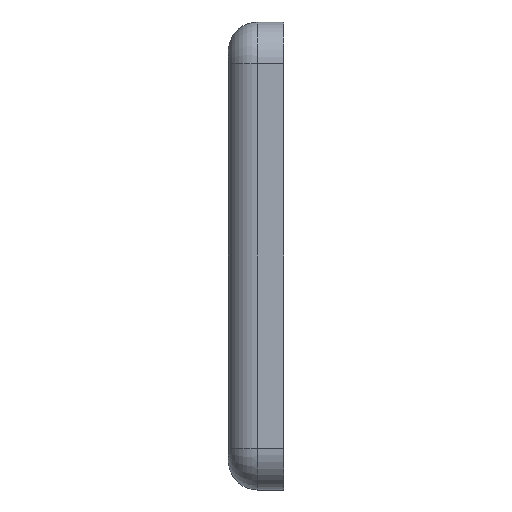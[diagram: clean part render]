
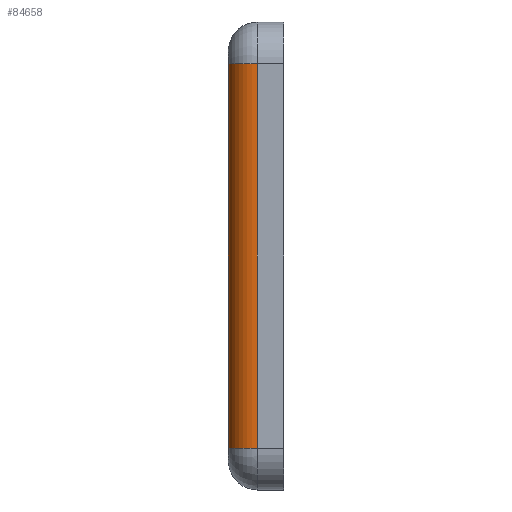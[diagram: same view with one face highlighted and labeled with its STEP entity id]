
A CAD part, left-side view. The second image highlights one B-rep face of the part: STEP entity #84658.
In plain terms, the highlighted cylindrical face has radius 25.4 mm (diameter 50.8 mm), a partial arc.
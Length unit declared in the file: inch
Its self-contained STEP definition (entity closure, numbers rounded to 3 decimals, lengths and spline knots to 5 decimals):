
#14010 = CIRCLE ( 'NONE', #97355, 1. ) ;
#16761 = ORIENTED_EDGE ( 'NONE', *, *, #129321, .T. ) ;
#19524 = DIRECTION ( 'NONE',  ( 1., 0., 0. ) ) ;
#23507 = CARTESIAN_POINT ( 'NONE',  ( -19.04502, 0.9, -6.5805 ) ) ;
#32207 = ORIENTED_EDGE ( 'NONE', *, *, #42434, .F. ) ;
#35266 = LINE ( 'NONE', #61358, #176384 ) ;
#35477 = DIRECTION ( 'NONE',  ( 0., 0., -1. ) ) ;
#36578 = ORIENTED_EDGE ( 'NONE', *, *, #61516, .F. ) ;
#42434 = EDGE_CURVE ( 'NONE', #73414, #54964, #35266, .T. ) ;
#46483 = VERTEX_POINT ( 'NONE', #84452 ) ;
#46912 = CARTESIAN_POINT ( 'NONE',  ( -18.04502, 0.9, 6.5805 ) ) ;
#48815 = FACE_OUTER_BOUND ( 'NONE', #77163, .T. ) ;
#49206 = CARTESIAN_POINT ( 'NONE',  ( -19.04502, 0.9, -6.5805 ) ) ;
#54964 = VERTEX_POINT ( 'NONE', #136662 ) ;
#59925 = VECTOR ( 'NONE', #35477, 39.37008 ) ;
#61358 = CARTESIAN_POINT ( 'NONE',  ( -18.04502, 1.9, 6.5805 ) ) ;
#61516 = EDGE_CURVE ( 'NONE', #54964, #46483, #100485, .T. ) ;
#66358 = ORIENTED_EDGE ( 'NONE', *, *, #114210, .F. ) ;
#68513 = LINE ( 'NONE', #49206, #59925 ) ;
#70283 = DIRECTION ( 'NONE',  ( 0., 0., 1. ) ) ;
#73414 = VERTEX_POINT ( 'NONE', #136946 ) ;
#74677 = DIRECTION ( 'NONE',  ( 0., 0., 1. ) ) ;
#77163 = EDGE_LOOP ( 'NONE', ( #16761, #66358, #36578, #32207 ) ) ;
#80871 = CYLINDRICAL_SURFACE ( 'NONE', #102725, 1. ) ;
#84452 = CARTESIAN_POINT ( 'NONE',  ( -19.04502, 0.9, 6.5805 ) ) ;
#84658 = ADVANCED_FACE ( 'NONE', ( #48815 ), #80871, .T. ) ;
#97355 = AXIS2_PLACEMENT_3D ( 'NONE', #156493, #74677, #170259 ) ;
#100485 = CIRCLE ( 'NONE', #160824, 1. ) ;
#102725 = AXIS2_PLACEMENT_3D ( 'NONE', #46912, #156233, #19524 ) ;
#114210 = EDGE_CURVE ( 'NONE', #46483, #138846, #68513, .T. ) ;
#129321 = EDGE_CURVE ( 'NONE', #73414, #138846, #14010, .T. ) ;
#136662 = CARTESIAN_POINT ( 'NONE',  ( -18.04502, 1.9, 6.5805 ) ) ;
#136946 = CARTESIAN_POINT ( 'NONE',  ( -18.04502, 1.9, -6.5805 ) ) ;
#138846 = VERTEX_POINT ( 'NONE', #23507 ) ;
#143151 = DIRECTION ( 'NONE',  ( 0., 0., 1. ) ) ;
#152055 = CARTESIAN_POINT ( 'NONE',  ( -18.04502, 0.9, 6.5805 ) ) ;
#156233 = DIRECTION ( 'NONE',  ( 0., 0., 1. ) ) ;
#156493 = CARTESIAN_POINT ( 'NONE',  ( -18.04502, 0.9, -6.5805 ) ) ;
#160824 = AXIS2_PLACEMENT_3D ( 'NONE', #152055, #70283, #165845 ) ;
#165845 = DIRECTION ( 'NONE',  ( 1., 0., 0. ) ) ;
#170259 = DIRECTION ( 'NONE',  ( 1., 0., 0. ) ) ;
#176384 = VECTOR ( 'NONE', #143151, 39.37008 ) ;
